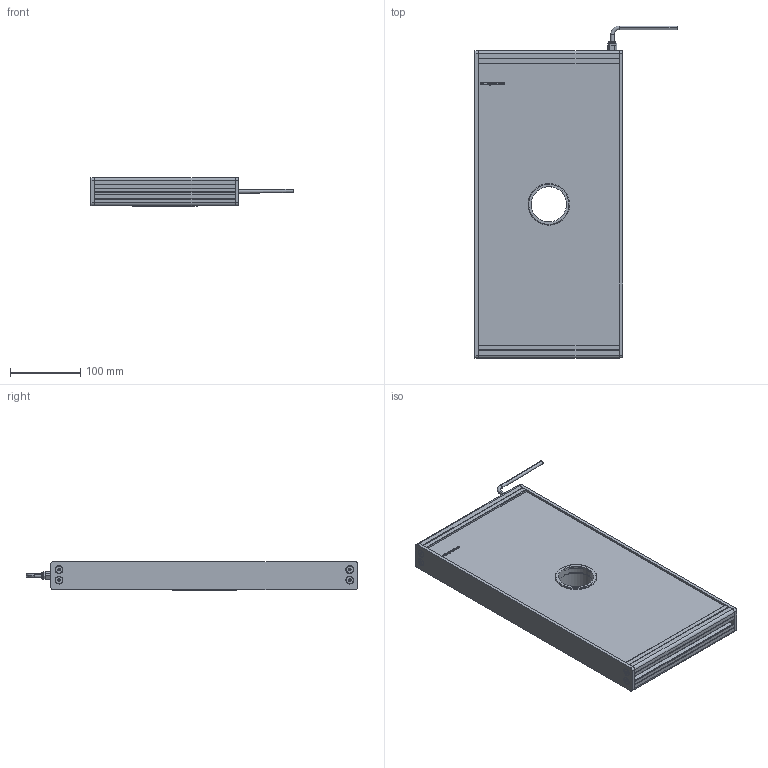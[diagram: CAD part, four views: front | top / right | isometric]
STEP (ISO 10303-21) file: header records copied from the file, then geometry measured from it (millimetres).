
FILE_DESCRIPTION (( 'STEP AP214' ), '1' );
FILE_NAME ('EFFI-FD-200T-400-M12 Ø50.STEP', '2021-07-02T12:27:41', ( '' ), ( '' ), 'SwSTEP 2.0', 'SolidWorks 2021', '' );
FILE_SCHEMA (( 'AUTOMOTIVE_DESIGN' ));
Length unit declared in the file: millimetre
Products named in the file (11): cordon_Avec cable; profile modif_lg 99.5 mm; 003776; 001040; 001039; bord fin modif_lg 436.5 mm; Pièce2^EFFI-FD-XXXT-YYY-M12 Ø50; EFFI-FD-200T-400-M12 Ø50; Assemblage Ø50; 000590
Assembly tree (20 placements, depth 3):
  EFFI-FD-200T-400-M12 Ø50
    profile modif_lg 99.5 mm
    bord fin modif_lg 436.5 mm  x2
    Pièce2^EFFI-FD-XXXT-YYY-M12 Ø50
    profile modif_lg 99.5 mm
    003776  x8
    cordon_Avec cable
    Assemblage Ø50
      001039
      001040
      000590  x3
Bounding box: 287.13 x 471.15 x 41 mm (x, y, z)
Volume: 3126772.8 mm3; surface area: 377420 mm2
Topology: 18 solids, 24 shells, 997 faces, 2503 edges, 1569 vertices
Faces by surface type: plane 391, cylinder 231, bspline 180, cone 152, torus 35, sphere 8
Entity records: 25439 total; most frequent: CARTESIAN_POINT 8620, ORIENTED_EDGE 3290, DIRECTION 3029, EDGE_CURVE 1649, VERTEX_POINT 1066, AXIS2_PLACEMENT_3D 1021, LINE 987, VECTOR 987
